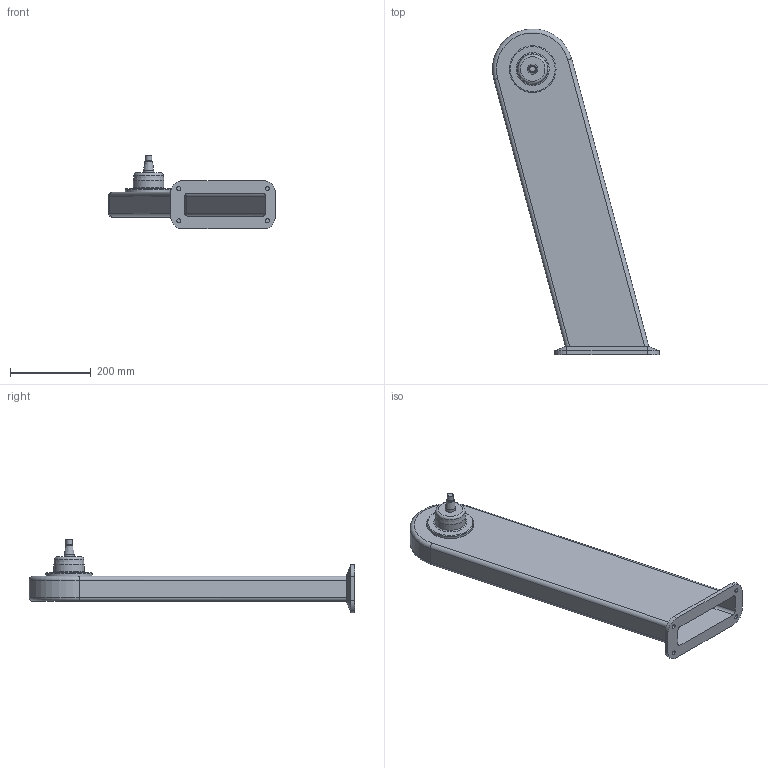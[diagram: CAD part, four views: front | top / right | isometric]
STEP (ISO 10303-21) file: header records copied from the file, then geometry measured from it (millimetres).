
FILE_DESCRIPTION (( 'STEP AP214' ), '1' );
FILE_NAME ('WP800_H710_-15.STEP', '2014-06-26T09:20:51', ( '' ), ( '' ), 'SwSTEP 2.0', 'SolidWorks 2014', '' );
FILE_SCHEMA (( 'AUTOMOTIVE_DESIGN' ));
Length unit declared in the file: millimetre
Products named in the file (1): WP800_H710_-15
Bounding box: 414.5 x 809.62 x 183.29 mm (x, y, z)
Volume: 1806368.5 mm3; surface area: 878932.2 mm2
Topology: 1 solids, 1 shells, 68 faces, 141 edges, 85 vertices
Faces by surface type: plane 26, cylinder 25, cone 10, torus 7
Full cylindrical faces by diameter (mm): 10 x4, 14.5 x1, 16 x1, 25 x3, 76 x1, 116 x1
Entity records: 1724 total; most frequent: DIRECTION 308, CARTESIAN_POINT 299, ORIENTED_EDGE 242, AXIS2_PLACEMENT_3D 126, EDGE_CURVE 121, EDGE_LOOP 100, VERTEX_POINT 85, FACE_OUTER_BOUND 82
